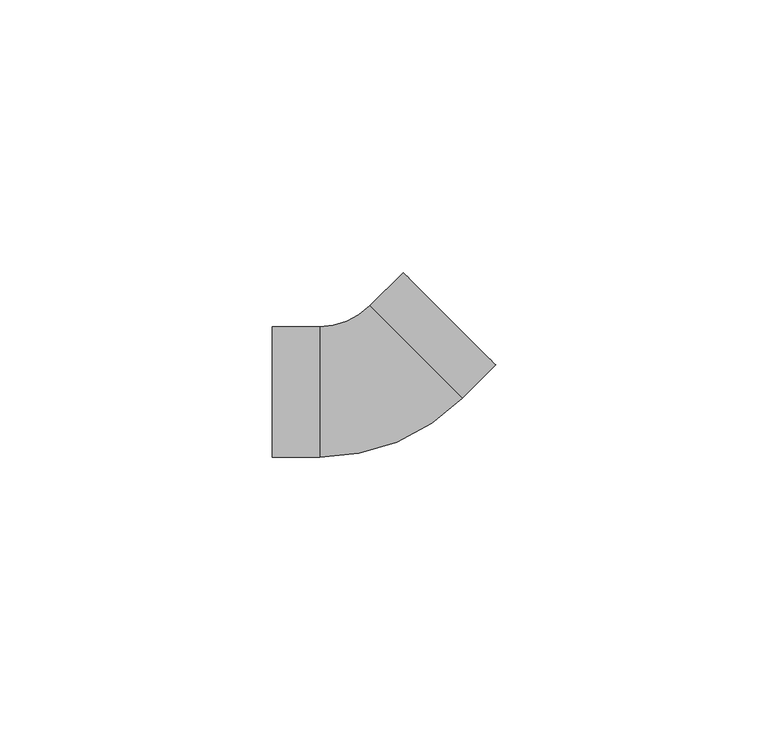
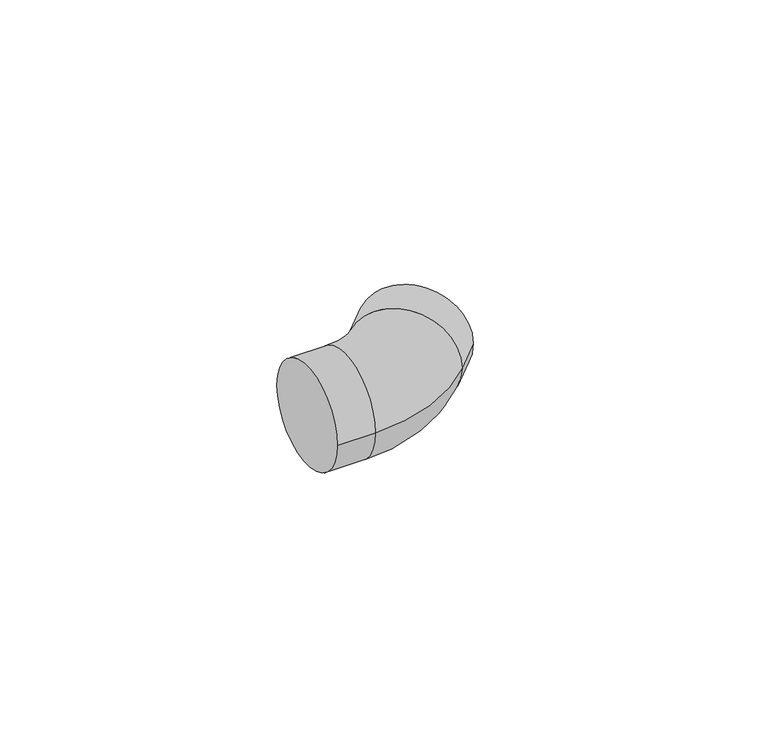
"""IFC4 building model written with IfcOpenShell, lengths in millimetres: pipe fitting geometry, PipeFitting_HTA_CPVC_Elbows : 16mm x 45°."""

from ifc_helpers import new_model, si_unit, point, frame, origin, place, context, project, spatial, circle_curve, ellipse_curve, trimmed, source, transform, mapped, element, save
from ifc_brep_helpers import plane_surface, cylinder_surface, revolved_surface, advanced_brep


def pipe_fitting_2d412168(model_context):
    return source(origin(), model_context, "Body", "AdvancedBrep", [
        advanced_brep(
        [(-19.0, -12.0, 0.0), (-19.0, 12.0, 0.0), (-10.3553391, -12.0, 0.0), (-10.3553391, 12.0, 0.0), (-1.1629509, 15.8076118, 0.0), (15.8076118, -1.1629509, 0.0), (21.9203102, 4.9497475, 0.0), (4.9497475, 21.9203102, 0.0)],
        [
            (0, 1, circle_curve(frame((-19.0, 0.0, 0.0), z_axis=(-1.0, 0.0, 0.0), x_axis=(0.0, 1.0, 0.0)), 12.0)),
            (1, 0, circle_curve(frame((-19.0, 0.0, 0.0), z_axis=(-1.0, 0.0, 0.0), x_axis=(0.0, 1.0, 0.0)), 12.0)),
            (0, 2),
            (2, 3, circle_curve(frame((-10.3553391, 0.0, 0.0), z_axis=(-1.0, 0.0, 0.0), x_axis=(0.0, 1.0, 0.0)), 12.0)),
            (3, 1),
            (3, 2, circle_curve(frame((-10.3553391, 0.0, 0.0), z_axis=(-1.0, 0.0, 0.0), x_axis=(0.0, 1.0, 0.0)), 12.0)),
            (4, 3, circle_curve(frame((-10.3553391, 25.0, 0.0), z_axis=(0.0, 0.0, -1.0), x_axis=(0.0, -1.0, 0.0)), 13.0)),
            (2, 5, circle_curve(frame((-10.3553391, 25.0, 0.0), z_axis=(0.0, 0.0, 1.0), x_axis=(0.0, -1.0, 0.0)), 37.0)),
            (5, 4, circle_curve(frame((7.3223305, 7.3223305, 0.0), z_axis=(-0.7071067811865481, -0.7071067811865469, 0.0), x_axis=(-0.7071067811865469, 0.7071067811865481, 0.0)), 12.0)),
            (4, 5, circle_curve(frame((7.3223305, 7.3223305, 0.0), z_axis=(-0.7071067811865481, -0.7071067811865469, 0.0), x_axis=(-0.7071067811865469, 0.7071067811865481, 0.0)), 12.0)),
            (6, 7, circle_curve(frame((13.4350288, 13.4350288, 0.0), z_axis=(0.7071067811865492, 0.7071067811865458, 0.0), x_axis=(-0.7071067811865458, 0.7071067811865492, 0.0)), 12.0)),
            (7, 6, circle_curve(frame((13.4350288, 13.4350288, 0.0), z_axis=(0.7071067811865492, 0.7071067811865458, 0.0), x_axis=(-0.7071067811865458, 0.7071067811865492, 0.0)), 12.0)),
            (5, 6),
            (7, 4),
        ],
        [
            plane_surface(frame((-19.0, 0.0, 0.0), z_axis=(-1.0, 0.0, 0.0), x_axis=(0.0, 0.0, 1.0))),
            cylinder_surface(frame((-19.0, 0.0, 0.0), z_axis=(-1.0, 0.0, 0.0), x_axis=(0.0, 1.0, 0.0)), 12.0),
            revolved_surface(trimmed(ellipse_curve(frame((-10.3553391, 0.0, 0.0), z_axis=(-1.0, 0.0, 0.0), x_axis=(0.0, 1.0, 0.0)), 12.0, 12.0), [point((-10.3553391, -12.0, 0.0))], [point((-10.3553391, 12.0, 0.0))], True, "CARTESIAN"), (-10.3553391, 25.0, 0.0), (0.0, 0.0, 1.0)),
            revolved_surface(trimmed(ellipse_curve(frame((-10.3553391, 0.0, 0.0), z_axis=(-1.0, 0.0, 0.0), x_axis=(0.0, 1.0, 0.0)), 12.0, 12.0), [point((-10.3553391, 12.0, 0.0))], [point((-10.3553391, -12.0, 0.0))], True, "CARTESIAN"), (-10.3553391, 25.0, 0.0), (0.0, 0.0, 1.0)),
            plane_surface(frame((13.4350288, 13.4350288, 0.0), z_axis=(0.7071067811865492, 0.7071067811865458, 0.0), x_axis=(0.0, 0.0, 1.0))),
            cylinder_surface(frame((7.3223305, 7.3223305, 0.0), z_axis=(-0.7071067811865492, -0.7071067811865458, 0.0), x_axis=(-0.7071067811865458, 0.7071067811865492, 0.0)), 12.0),
        ],
        [
            (0, [[1, 2]]),
            (1, [[-1, 3, 4, 5]]),
            (1, [[-2, -5, 6, -3]]),
            (2, [[7, -4, 8, 9]]),
            (3, [[-8, -6, -7, 10]]),
            (4, [[11, 12]]),
            (5, [[-9, 13, -12, 14]]),
            (5, [[-10, -14, -11, -13]]),
        ],
    ),
    ])


if __name__ == "__main__":
    model = new_model("IFC4")
    model_context = context("Model", 3, world=origin())
    ifc_project = project(units=[si_unit("LENGTHUNIT", "METRE", prefix="MILLI")], contexts=[model_context])
    site = spatial("IfcSite", under=ifc_project)
    building = spatial("IfcBuilding", under=site)
    placement = place(None, origin())
    pipe_fitting_shape = pipe_fitting_2d412168(model_context)
    element("IfcPipeFitting", 1, ObjectType="PipeFitting_HTA_CPVC_Elbows : 16mm x 45°", at=placement, inside=building, context=model_context, shape_type="MappedRepresentation", body=[
        mapped(pipe_fitting_shape, transform((0.0, 0.0, 0.0), x_axis=(1.0, 0.0, 0.0), y_axis=(0.0, 1.0, 0.0), z_axis=(0.0, 0.0, 1.0))),
    ])
    save(model, "model.ifc")
